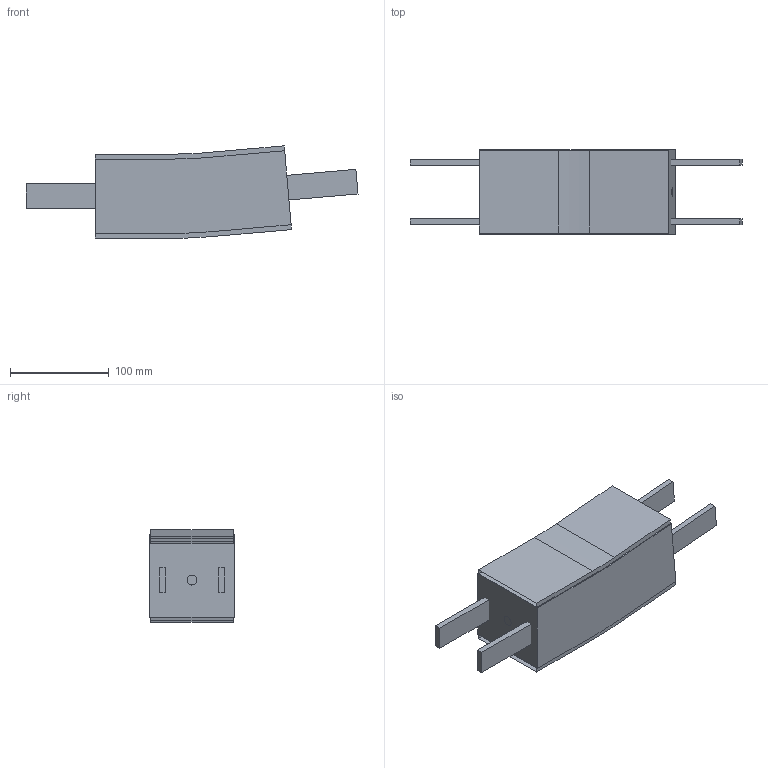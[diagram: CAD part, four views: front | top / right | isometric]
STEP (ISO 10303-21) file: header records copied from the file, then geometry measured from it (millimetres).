
FILE_DESCRIPTION(/* description */ ('Vertikaler Gleitbogen, 5°, R400'),/* implementation_level */ '2;1');
FILE_NAME(/* name */ 'T:\vdz0\Step Daten Website\modulflex FM-System\Vertikale Gleitbögen\FMBV 5R400_43832.stp',/* time_stamp */ '2024-09-03T10:36:48+02:00',/* author */ ('lzb0'),/* organization */ ('modular automation GmbH'),/* preprocessor_version */ 'ST-DEVELOPER v18.1',/* originating_system */ 'Autodesk Inventor 2021',/* authorisation */ '');
FILE_SCHEMA (('AUTOMOTIVE_DESIGN { 1 0 10303 214 3 1 1 }'));
Length unit declared in the file: millimetre
Products named in the file (1): FMBV 05R400
Bounding box: 335.38 x 85 x 93.33 mm (x, y, z)
Volume: 1326529.5 mm3; surface area: 180275.5 mm2
Topology: 5 solids, 9 shells, 52 faces, 126 edges, 84 vertices
Faces by surface type: plane 44, cylinder 8
Full cylindrical faces by diameter (mm): 10 x2
Entity records: 1598 total; most frequent: CARTESIAN_POINT 270, DIRECTION 250, ORIENTED_EDGE 232, EDGE_CURVE 126, LINE 110, VECTOR 110, VERTEX_POINT 84, AXIS2_PLACEMENT_3D 70
